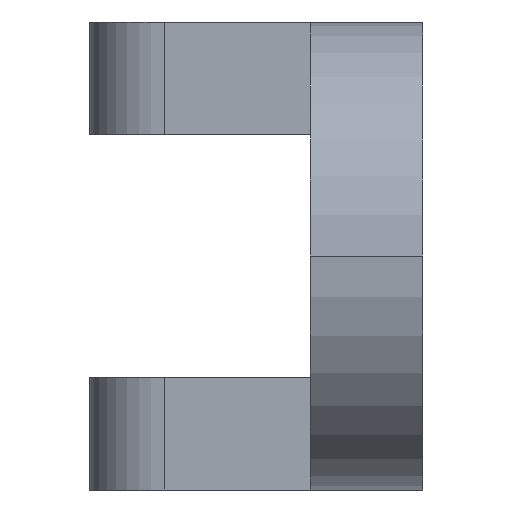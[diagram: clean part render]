
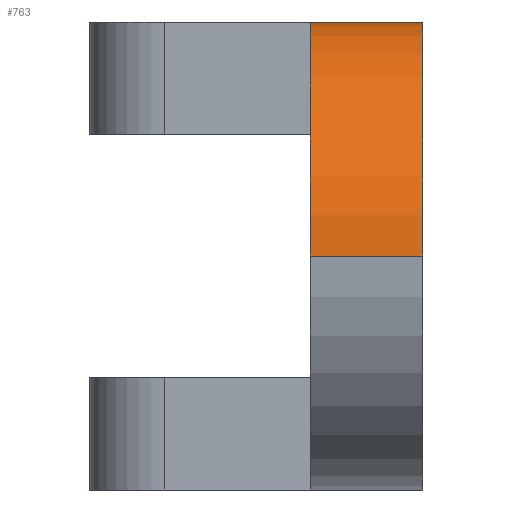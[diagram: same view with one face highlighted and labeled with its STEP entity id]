
A CAD part, left-side view. The second image highlights one B-rep face of the part: STEP entity #763.
In plain terms, the highlighted cylindrical face has radius 6.35 mm (diameter 12.7 mm), a partial arc.
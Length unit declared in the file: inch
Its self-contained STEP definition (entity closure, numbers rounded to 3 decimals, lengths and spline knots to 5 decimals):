
#3 = VERTEX_POINT ( 'NONE', #595 ) ;
#88 = DIRECTION ( 'NONE',  ( 0., 1., 0. ) ) ;
#111 = EDGE_CURVE ( 'NONE', #235, #3, #500, .T. ) ;
#136 = DIRECTION ( 'NONE',  ( 0., -1., 0. ) ) ;
#150 = ORIENTED_EDGE ( 'NONE', *, *, #1009, .F. ) ;
#201 = CARTESIAN_POINT ( 'NONE',  ( -0.875, 0.12, 0. ) ) ;
#235 = VERTEX_POINT ( 'NONE', #1223 ) ;
#279 = CARTESIAN_POINT ( 'NONE',  ( -0.875, 1.54037, 0. ) ) ;
#393 = DIRECTION ( 'NONE',  ( 0., 1., 0. ) ) ;
#450 = DIRECTION ( 'NONE',  ( 0., -1., 0. ) ) ;
#500 = CIRCLE ( 'NONE', #1156, 0.25 ) ;
#503 = CYLINDRICAL_SURFACE ( 'NONE', #531, 0.25 ) ;
#531 = AXIS2_PLACEMENT_3D ( 'NONE', #279, #930, #840 ) ;
#564 = ORIENTED_EDGE ( 'NONE', *, *, #111, .F. ) ;
#595 = CARTESIAN_POINT ( 'NONE',  ( -0.875, 0.12, 0.25 ) ) ;
#606 = FACE_OUTER_BOUND ( 'NONE', #1149, .T. ) ;
#623 = ORIENTED_EDGE ( 'NONE', *, *, #839, .F. ) ;
#650 = VECTOR ( 'NONE', #393, 39.37008 ) ;
#673 = VERTEX_POINT ( 'NONE', #683 ) ;
#683 = CARTESIAN_POINT ( 'NONE',  ( -1.125, 0., 0. ) ) ;
#695 = DIRECTION ( 'NONE',  ( 0., 0., 1. ) ) ;
#763 = ADVANCED_FACE ( 'NONE', ( #606 ), #503, .T. ) ;
#811 = VERTEX_POINT ( 'NONE', #946 ) ;
#839 = EDGE_CURVE ( 'NONE', #673, #235, #1407, .T. ) ;
#840 = DIRECTION ( 'NONE',  ( 0., 0., 1. ) ) ;
#924 = CARTESIAN_POINT ( 'NONE',  ( -0.875, 0., 0. ) ) ;
#930 = DIRECTION ( 'NONE',  ( 0., 1., 0. ) ) ;
#946 = CARTESIAN_POINT ( 'NONE',  ( -0.875, 0., 0.25 ) ) ;
#997 = AXIS2_PLACEMENT_3D ( 'NONE', #924, #136, #695 ) ;
#1009 = EDGE_CURVE ( 'NONE', #3, #811, #1423, .T. ) ;
#1067 = CARTESIAN_POINT ( 'NONE',  ( -1.125, 0.12, 0. ) ) ;
#1069 = CIRCLE ( 'NONE', #997, 0.25 ) ;
#1149 = EDGE_LOOP ( 'NONE', ( #150, #564, #623, #1296 ) ) ;
#1156 = AXIS2_PLACEMENT_3D ( 'NONE', #201, #88, #1447 ) ;
#1223 = CARTESIAN_POINT ( 'NONE',  ( -1.125, 0.12, 0. ) ) ;
#1296 = ORIENTED_EDGE ( 'NONE', *, *, #1458, .F. ) ;
#1407 = LINE ( 'NONE', #1067, #650 ) ;
#1423 = LINE ( 'NONE', #1430, #1435 ) ;
#1430 = CARTESIAN_POINT ( 'NONE',  ( -0.875, 0., 0.25 ) ) ;
#1435 = VECTOR ( 'NONE', #450, 39.37008 ) ;
#1447 = DIRECTION ( 'NONE',  ( 1., 0., 0. ) ) ;
#1458 = EDGE_CURVE ( 'NONE', #811, #673, #1069, .T. ) ;
